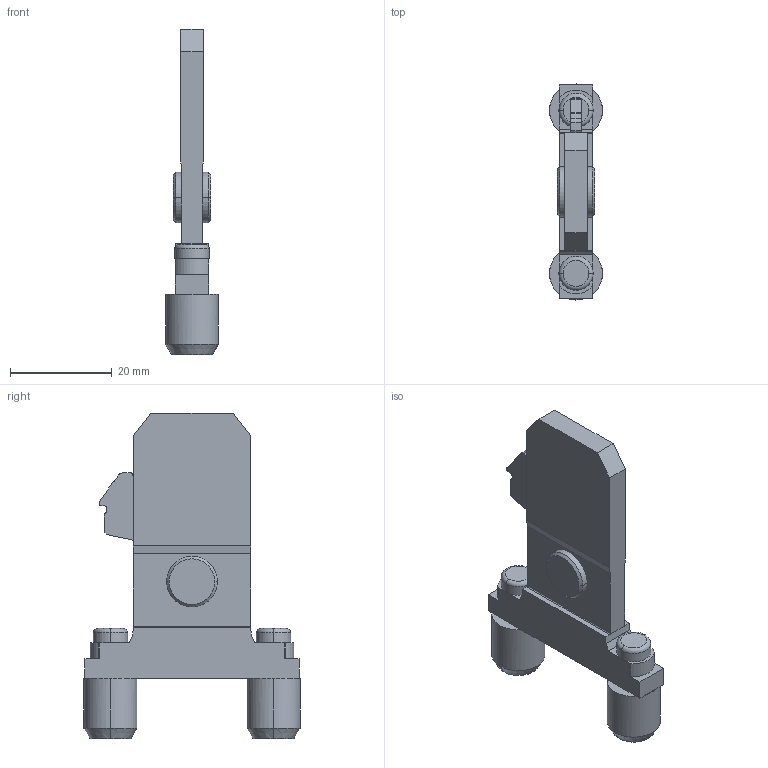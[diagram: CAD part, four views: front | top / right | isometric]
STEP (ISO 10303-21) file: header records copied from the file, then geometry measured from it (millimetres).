
FILE_DESCRIPTION (( 'STEP AP214' ), '1' );
FILE_NAME ('Fronbefestigung Dübel D10_OD52106200.STEP', '2014-07-09T09:23:14', ( '' ), ( '' ), 'SwSTEP 2.0', 'SolidWorks 2013', '' );
FILE_SCHEMA (( 'AUTOMOTIVE_DESIGN' ));
Length unit declared in the file: millimetre
Products named in the file (1): Fronbefestigung Dübel D10_OD52106200
Bounding box: 10.4 x 42.4 x 63.8 mm (x, y, z)
Volume: 9208.9 mm3; surface area: 5091.7 mm2
Topology: 3 solids, 3 shells, 100 faces, 246 edges, 152 vertices
Faces by surface type: plane 62, cylinder 26, cone 8, torus 4
Entity records: 2982 total; most frequent: DIRECTION 536, CARTESIAN_POINT 499, ORIENTED_EDGE 492, EDGE_CURVE 246, AXIS2_PLACEMENT_3D 189, VECTOR 158, LINE 158, VERTEX_POINT 152
